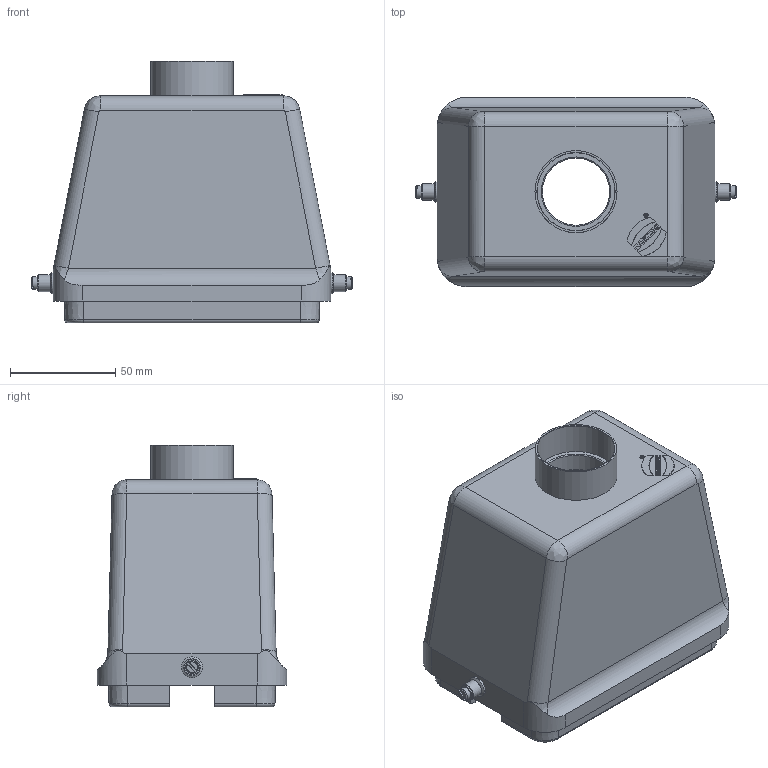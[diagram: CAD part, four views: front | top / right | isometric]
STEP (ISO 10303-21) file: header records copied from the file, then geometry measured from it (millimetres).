
FILE_DESCRIPTION(/* description */ (''),/* implementation_level */ '2;1');
FILE_NAME(/* name */ '100767421ugm000_a.stp',/* time_stamp */ '2022-03-12T07:11:08+01:00',/* author */ (''),/* organization */ (''),/* preprocessor_version */ 'ST-DEVELOPER v16.7',/* originating_system */ 'SIEMENS PLM Software NX 1911',/* authorisation */ '');
FILE_SCHEMA (('AUTOMOTIVE_DESIGN { 1 0 10303 214 3 1 1 1 }'));
Length unit declared in the file: millimetre
Products named in the file (1): 100767421ugm000_a
Bounding box: 153 x 90 x 124.5 mm (x, y, z)
Volume: 270136.3 mm3; surface area: 98381.8 mm2
Topology: 1 solids, 1 shells, 369 faces, 1556 edges, 1807 vertices
Faces by surface type: plane 199, cylinder 106, cone 32, bspline 26, torus 6
Full cylindrical faces by diameter (mm): 3 x8, 6 x4, 7.3 x2, 8 x2, 10 x2, 32 x1, 37 x2, 39 x1
Entity records: 17881 total; most frequent: CARTESIAN_POINT 4602, DIRECTION 1973, ORIENTED_EDGE 1788, EDGE_CURVE 894, PRESENTATION_STYLE_ASSIGNMENT 739, LINE 717, VECTOR 717, AXIS2_PLACEMENT_3D 628
